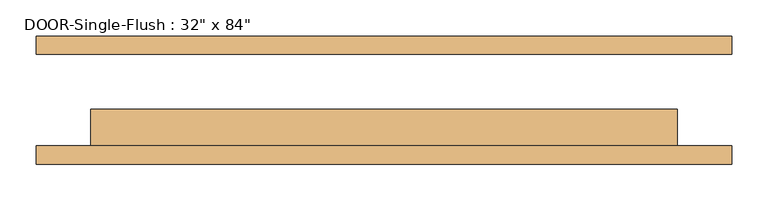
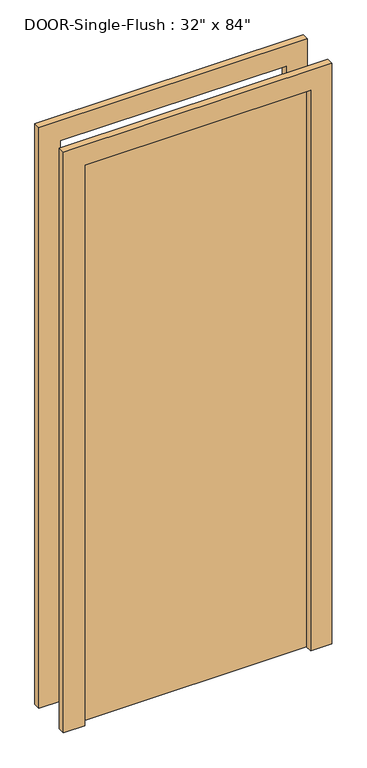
"""IFC4 building model written with IfcOpenShell, lengths in millimetres: door geometry."""

from ifc_helpers import new_model, si_unit, frame, origin, origin_with_axes, place, context, project, spatial, polyline, outline, extrude, source, transform, mapped, element, save


def door_ba4c5d75(model_context):
    return source(origin(), model_context, "Body", "SweptSolid", [
        extrude(outline(polyline([(2209.8, -482.6), (0.0, -482.6), (0.0, -406.4), (2133.6, -406.4), (2133.6, 406.4), (0.0, 406.4), (0.0, 482.6), (2209.8, 482.6), (2209.8, -482.6)])), frame((0.0, -88.9, 0.0), z_axis=(0.0, 1.0, 0.0), x_axis=(0.0, 0.0, 1.0)), (0.0, 0.0, 1.0), 25.4),
        extrude(outline(polyline([(2209.8, 482.6), (2209.8, -482.6), (0.0, -482.6), (0.0, -406.4), (2133.6, -406.4), (2133.6, 406.4), (0.0, 406.4), (0.0, 482.6), (2209.8, 482.6)])), frame((0.0, 63.5, 0.0), z_axis=(0.0, 1.0, 0.0), x_axis=(0.0, 0.0, 1.0)), (0.0, 0.0, 1.0), 25.4),
        extrude(outline(polyline([(406.4, -12.7), (406.4, -63.5), (-406.4, -63.5), (-406.4, -12.7), (406.4, -12.7)])), origin_with_axes(), (0.0, 0.0, 1.0), 2133.6),
    ])


if __name__ == "__main__":
    model = new_model("IFC4")
    model_context = context("Model", 3, world=origin())
    ifc_project = project(units=[si_unit("LENGTHUNIT", "METRE", prefix="MILLI")], contexts=[model_context])
    site = spatial("IfcSite", under=ifc_project)
    building = spatial("IfcBuilding", under=site)
    placement = place(None, origin())
    door_shape = door_ba4c5d75(model_context)
    element("IfcDoor", 1, ObjectType="DOOR-Single-Flush : 32\" x 84\"", at=placement, inside=building, context=model_context, shape_type="MappedRepresentation", body=[
        mapped(door_shape, transform((0.0, 0.0, 0.0), x_axis=(1.0, 0.0, 0.0), y_axis=(0.0, 1.0, 0.0), z_axis=(0.0, 0.0, 1.0))),
    ])
    save(model, "model.ifc")
